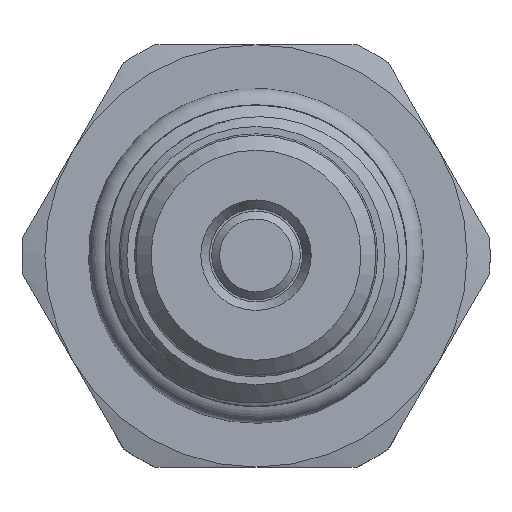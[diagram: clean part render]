
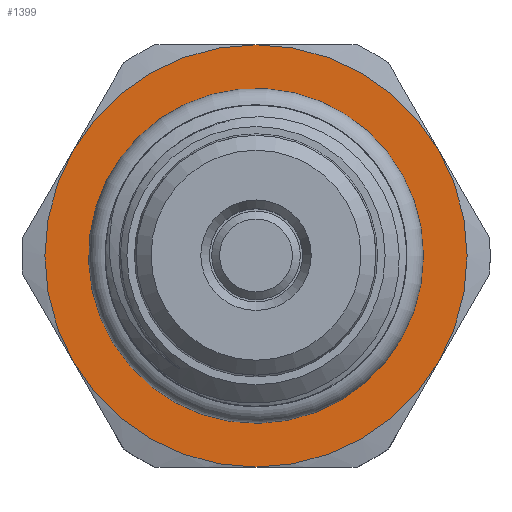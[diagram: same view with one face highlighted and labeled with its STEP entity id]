
A CAD part, top view. The second image highlights one B-rep face of the part: STEP entity #1399.
In plain terms, the highlighted planar face has unit normal (0, 0, 1).
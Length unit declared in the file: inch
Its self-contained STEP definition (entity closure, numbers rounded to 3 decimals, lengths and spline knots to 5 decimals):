
#111=FACE_BOUND('',#252,.T.);
#135=PLANE('',#1536);
#165=FACE_OUTER_BOUND('',#251,.T.);
#251=EDGE_LOOP('',(#956,#957,#958,#959,#960,#961));
#252=EDGE_LOOP('',(#962,#963));
#368=CIRCLE('',#1537,0.4375);
#369=CIRCLE('',#1538,0.4375);
#370=CIRCLE('',#1539,0.4375);
#371=CIRCLE('',#1540,0.4375);
#372=CIRCLE('',#1541,0.4375);
#373=CIRCLE('',#1542,0.4375);
#374=CIRCLE('',#1543,0.306);
#375=CIRCLE('',#1544,0.306);
#550=VERTEX_POINT('',#2134);
#551=VERTEX_POINT('',#2135);
#556=VERTEX_POINT('',#2150);
#557=VERTEX_POINT('',#2151);
#558=VERTEX_POINT('',#2153);
#559=VERTEX_POINT('',#2155);
#560=VERTEX_POINT('',#2157);
#561=VERTEX_POINT('',#2159);
#711=EDGE_CURVE('',#556,#557,#368,.T.);
#712=EDGE_CURVE('',#557,#558,#369,.T.);
#713=EDGE_CURVE('',#558,#559,#370,.T.);
#714=EDGE_CURVE('',#559,#560,#371,.T.);
#715=EDGE_CURVE('',#560,#561,#372,.T.);
#716=EDGE_CURVE('',#561,#556,#373,.T.);
#717=EDGE_CURVE('',#550,#551,#374,.T.);
#718=EDGE_CURVE('',#551,#550,#375,.T.);
#956=ORIENTED_EDGE('',*,*,#711,.T.);
#957=ORIENTED_EDGE('',*,*,#712,.T.);
#958=ORIENTED_EDGE('',*,*,#713,.T.);
#959=ORIENTED_EDGE('',*,*,#714,.T.);
#960=ORIENTED_EDGE('',*,*,#715,.T.);
#961=ORIENTED_EDGE('',*,*,#716,.T.);
#962=ORIENTED_EDGE('',*,*,#717,.F.);
#963=ORIENTED_EDGE('',*,*,#718,.F.);
#1399=ADVANCED_FACE('',(#165,#111),#135,.F.);
#1536=AXIS2_PLACEMENT_3D('',#2149,#1765,#1766);
#1537=AXIS2_PLACEMENT_3D('',#2152,#1767,#1768);
#1538=AXIS2_PLACEMENT_3D('',#2154,#1769,#1770);
#1539=AXIS2_PLACEMENT_3D('',#2156,#1771,#1772);
#1540=AXIS2_PLACEMENT_3D('',#2158,#1773,#1774);
#1541=AXIS2_PLACEMENT_3D('',#2160,#1775,#1776);
#1542=AXIS2_PLACEMENT_3D('',#2161,#1777,#1778);
#1543=AXIS2_PLACEMENT_3D('',#2162,#1779,#1780);
#1544=AXIS2_PLACEMENT_3D('',#2163,#1781,#1782);
#1765=DIRECTION('center_axis',(0.,0.,-1.));
#1766=DIRECTION('ref_axis',(-1.,0.,0.));
#1767=DIRECTION('center_axis',(0.,0.,1.));
#1768=DIRECTION('ref_axis',(0.,1.,0.));
#1769=DIRECTION('center_axis',(0.,0.,1.));
#1770=DIRECTION('ref_axis',(0.,1.,0.));
#1771=DIRECTION('center_axis',(0.,0.,1.));
#1772=DIRECTION('ref_axis',(0.,1.,0.));
#1773=DIRECTION('center_axis',(0.,0.,1.));
#1774=DIRECTION('ref_axis',(0.,1.,0.));
#1775=DIRECTION('center_axis',(0.,0.,1.));
#1776=DIRECTION('ref_axis',(0.,1.,0.));
#1777=DIRECTION('center_axis',(0.,0.,1.));
#1778=DIRECTION('ref_axis',(0.,1.,0.));
#1779=DIRECTION('center_axis',(0.,0.,
1.));
#1780=DIRECTION('ref_axis',(-1.,0.,0.));
#1781=DIRECTION('center_axis',(0.,0.,
1.));
#1782=DIRECTION('ref_axis',(-1.,0.,0.));
#2134=CARTESIAN_POINT('',(0.306,0.,0.188));
#2135=CARTESIAN_POINT('',(-0.29954,-0.06255,0.188));
#2149=CARTESIAN_POINT('Origin',(0.,0.,0.188));
#2150=CARTESIAN_POINT('',(-0.37889,0.21875,0.188));
#2151=CARTESIAN_POINT('',(-0.37889,-0.21875,0.188));
#2152=CARTESIAN_POINT('Origin',(0.,0.,0.188));
#2153=CARTESIAN_POINT('',(0.,-0.4375,0.188));
#2154=CARTESIAN_POINT('Origin',(0.,0.,0.188));
#2155=CARTESIAN_POINT('',(0.37889,-0.21875,0.188));
#2156=CARTESIAN_POINT('Origin',(0.,0.,0.188));
#2157=CARTESIAN_POINT('',(0.37889,0.21875,0.188));
#2158=CARTESIAN_POINT('Origin',(0.,0.,0.188));
#2159=CARTESIAN_POINT('',(0.,0.4375,0.188));
#2160=CARTESIAN_POINT('Origin',(0.,0.,0.188));
#2161=CARTESIAN_POINT('Origin',(0.,0.,0.188));
#2162=CARTESIAN_POINT('Origin',(0.,0.,
0.188));
#2163=CARTESIAN_POINT('Origin',(0.,0.,
0.188));
